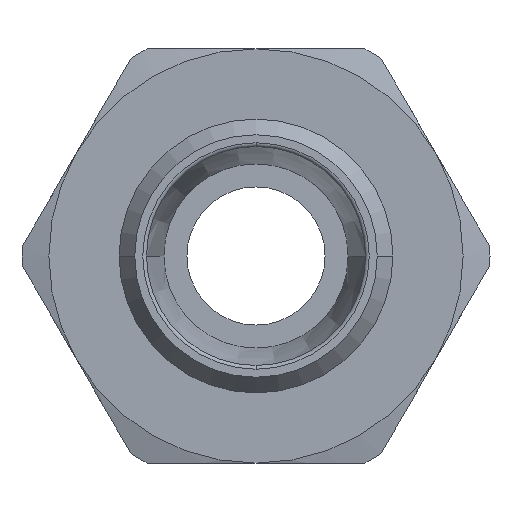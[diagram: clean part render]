
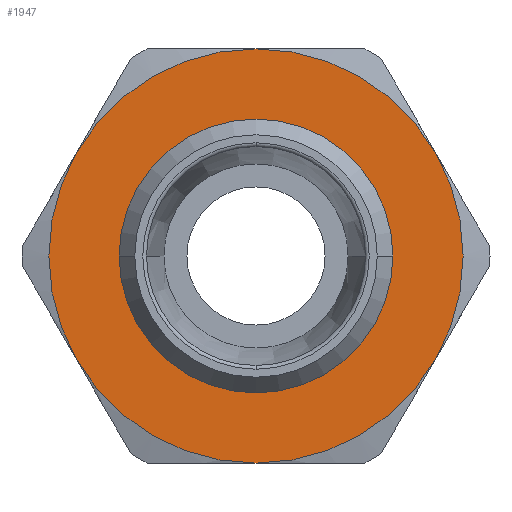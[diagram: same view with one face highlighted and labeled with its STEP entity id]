
A CAD part, left-side view. The second image highlights one B-rep face of the part: STEP entity #1947.
In plain terms, the highlighted planar face has unit normal (-1, 0, 0) as drawn and (0, 0, 1) by its records, which use the part's own axes.
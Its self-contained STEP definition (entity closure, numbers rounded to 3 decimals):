
#857=CARTESIAN_POINT('',(-8.8,0.,3.0));
#858=VERTEX_POINT('',#857);
#884=CARTESIAN_POINT('',(8.8,0.,3.0));
#885=VERTEX_POINT('',#884);
#893=CARTESIAN_POINT('',(0.,0.,3.0));
#894=DIRECTION('',(0.0,0.0,1.0));
#895=DIRECTION('',(-1.0,0.0,0.0));
#896=AXIS2_PLACEMENT_3D('',#893,#894,#895);
#897=CIRCLE('',#896,8.8);
#898=EDGE_CURVE('',#885,#858,#897,.T.);
#1827=CARTESIAN_POINT('',(0.,-8.8,3.));
#1828=VERTEX_POINT('',#1827);
#1829=CARTESIAN_POINT('',(0.,0.,3.0));
#1830=DIRECTION('',(0.0,0.0,1.0));
#1831=DIRECTION('',(-1.0,0.0,0.0));
#1832=AXIS2_PLACEMENT_3D('',#1829,#1830,#1831);
#1833=CIRCLE('',#1832,8.8);
#1834=EDGE_CURVE('',#858,#1828,#1833,.T.);
#1836=CARTESIAN_POINT('',(0.,0.,3.0));
#1837=DIRECTION('',(0.0,0.0,1.0));
#1838=DIRECTION('',(-1.0,0.0,0.0));
#1839=AXIS2_PLACEMENT_3D('',#1836,#1837,#1838);
#1840=CIRCLE('',#1839,8.8);
#1841=EDGE_CURVE('',#1828,#885,#1840,.T.);
#1881=CARTESIAN_POINT('',(0.0,0.,3.0));
#1882=DIRECTION('',(0.0,0.0,1.0));
#1883=DIRECTION('',(1.0,0.0,0.0));
#1884=AXIS2_PLACEMENT_3D('',#1881,#1882,#1883);
#1885=PLANE('',#1884);
#1886=CARTESIAN_POINT('',(6.75,-11.691,3.));
#1887=VERTEX_POINT('',#1886);
#1888=CARTESIAN_POINT('',(13.5,0.0,3.));
#1889=VERTEX_POINT('',#1888);
#1890=CARTESIAN_POINT('',(0.,0.0,3.0));
#1891=DIRECTION('',(0.0,0.0,1.0));
#1892=DIRECTION('',(1.0,0.0,0.0));
#1893=AXIS2_PLACEMENT_3D('',#1890,#1891,#1892);
#1894=CIRCLE('',#1893,13.5);
#1895=EDGE_CURVE('',#1887,#1889,#1894,.T.);
#1896=ORIENTED_EDGE('',*,*,#1895,.T.);
#1897=CARTESIAN_POINT('',(6.75,11.691,3.));
#1898=VERTEX_POINT('',#1897);
#1899=CARTESIAN_POINT('',(0.,0.0,3.0));
#1900=DIRECTION('',(0.0,0.0,1.0));
#1901=DIRECTION('',(1.0,0.0,0.0));
#1902=AXIS2_PLACEMENT_3D('',#1899,#1900,#1901);
#1903=CIRCLE('',#1902,13.5);
#1904=EDGE_CURVE('',#1889,#1898,#1903,.T.);
#1905=ORIENTED_EDGE('',*,*,#1904,.T.);
#1906=CARTESIAN_POINT('',(-6.75,11.691,3.));
#1907=VERTEX_POINT('',#1906);
#1908=CARTESIAN_POINT('',(0.,0.0,3.0));
#1909=DIRECTION('',(0.0,0.0,1.0));
#1910=DIRECTION('',(1.0,0.0,0.0));
#1911=AXIS2_PLACEMENT_3D('',#1908,#1909,#1910);
#1912=CIRCLE('',#1911,13.5);
#1913=EDGE_CURVE('',#1898,#1907,#1912,.T.);
#1914=ORIENTED_EDGE('',*,*,#1913,.T.);
#1915=CARTESIAN_POINT('',(-13.5,0.,3.));
#1916=VERTEX_POINT('',#1915);
#1917=CARTESIAN_POINT('',(0.,0.0,3.0));
#1918=DIRECTION('',(0.0,0.0,1.0));
#1919=DIRECTION('',(1.0,0.0,0.0));
#1920=AXIS2_PLACEMENT_3D('',#1917,#1918,#1919);
#1921=CIRCLE('',#1920,13.5);
#1922=EDGE_CURVE('',#1907,#1916,#1921,.T.);
#1923=ORIENTED_EDGE('',*,*,#1922,.T.);
#1924=CARTESIAN_POINT('',(-6.75,-11.691,3.));
#1925=VERTEX_POINT('',#1924);
#1926=CARTESIAN_POINT('',(0.,0.0,3.0));
#1927=DIRECTION('',(0.0,0.0,1.0));
#1928=DIRECTION('',(1.0,0.0,0.0));
#1929=AXIS2_PLACEMENT_3D('',#1926,#1927,#1928);
#1930=CIRCLE('',#1929,13.5);
#1931=EDGE_CURVE('',#1916,#1925,#1930,.T.);
#1932=ORIENTED_EDGE('',*,*,#1931,.T.);
#1933=CARTESIAN_POINT('',(0.,0.0,3.0));
#1934=DIRECTION('',(0.0,0.0,1.0));
#1935=DIRECTION('',(1.0,0.0,0.0));
#1936=AXIS2_PLACEMENT_3D('',#1933,#1934,#1935);
#1937=CIRCLE('',#1936,13.5);
#1938=EDGE_CURVE('',#1925,#1887,#1937,.T.);
#1939=ORIENTED_EDGE('',*,*,#1938,.T.);
#1940=EDGE_LOOP('',(#1896,#1905,#1914,#1923,#1932,#1939));
#1941=FACE_OUTER_BOUND('',#1940,.T.);
#1942=ORIENTED_EDGE('',*,*,#1841,.F.);
#1943=ORIENTED_EDGE('',*,*,#1834,.F.);
#1944=ORIENTED_EDGE('',*,*,#898,.F.);
#1945=EDGE_LOOP('',(#1942,#1943,#1944));
#1946=FACE_BOUND('',#1945,.T.);
#1947=ADVANCED_FACE('',(#1941,#1946),#1885,.T.);
